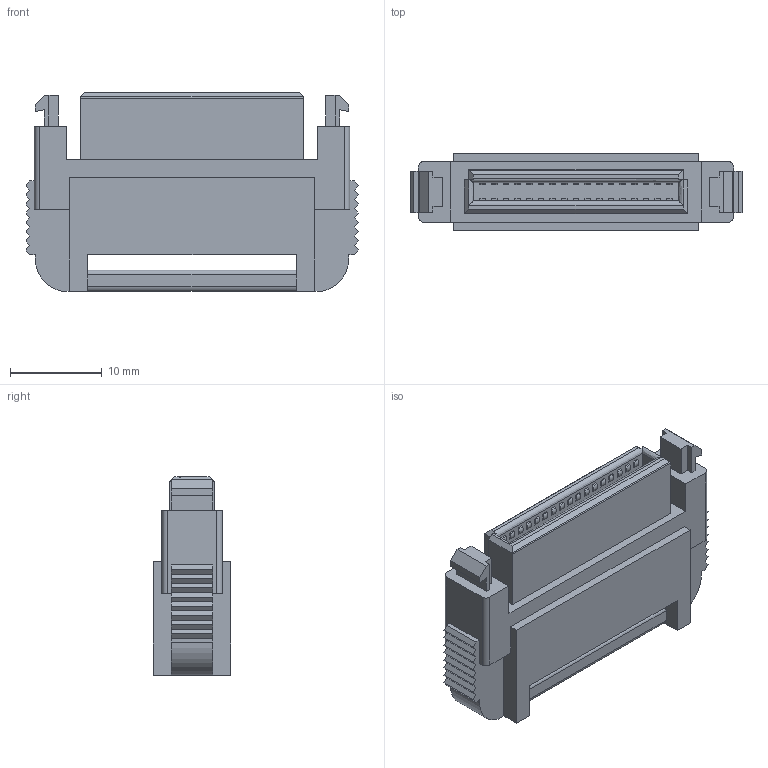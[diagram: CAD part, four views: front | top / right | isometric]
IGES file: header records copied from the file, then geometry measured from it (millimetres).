
Start section: Elysium IGES Interface
Global section: file name: C:\Users\1529\Desktop\‰c‹Æ‹Æ–±3DCADˆË—Š‘Î‰ž\8822-XXX-171X-F\P3D800_8822-034-171X-F.igs; native system: Creo Elements/Direct Modeling 20.4A  18-Oct-2021; preprocessor: Creo Element/Direct IGES_3D V2.2; author: Unknown; organization: Unknown; date: 20230328.102508; units: millimetre
Bounding box: 36.12 x 8.4 x 21.6 mm (x, y, z)
Volume: 3886.5 mm3; surface area: 3054.1 mm2
Topology: 1 solids, 1 shells, 550 faces, 1462 edges, 950 vertices
Faces by surface type: bspline 550
